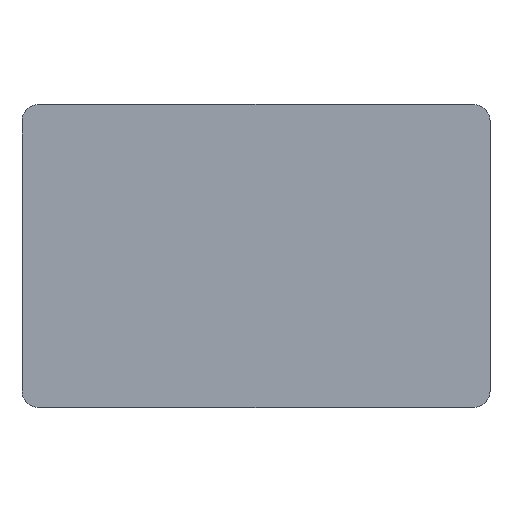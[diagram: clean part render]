
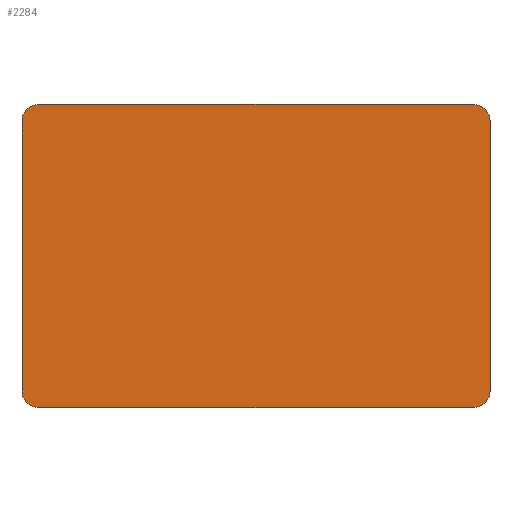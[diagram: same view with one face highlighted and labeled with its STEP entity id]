
A CAD part, top view. The second image highlights one B-rep face of the part: STEP entity #2284.
In plain terms, the highlighted planar face has unit normal (0, 0, 1).
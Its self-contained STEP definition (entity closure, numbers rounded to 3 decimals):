
#123=CIRCLE('',#2500,3.);
#124=CIRCLE('',#2503,3.);
#126=CIRCLE('',#2510,3.);
#127=CIRCLE('',#2511,3.);
#294=FACE_OUTER_BOUND('',#454,.T.);
#454=EDGE_LOOP('',(#2043,#2044,#2045,#2046,#2047,#2048,#2049,#2050));
#680=LINE('',#3793,#912);
#683=LINE('',#3801,#915);
#686=LINE('',#3813,#918);
#687=LINE('',#3816,#919);
#912=VECTOR('',#3133,10.);
#915=VECTOR('',#3142,10.);
#918=VECTOR('',#3157,10.);
#919=VECTOR('',#3160,10.);
#1122=VERTEX_POINT('',#3785);
#1123=VERTEX_POINT('',#3787);
#1124=VERTEX_POINT('',#3791);
#1125=VERTEX_POINT('',#3795);
#1126=VERTEX_POINT('',#3799);
#1128=VERTEX_POINT('',#3810);
#1129=VERTEX_POINT('',#3812);
#1130=VERTEX_POINT('',#3814);
#1425=EDGE_CURVE('',#1122,#1123,#123,.T.);
#1428=EDGE_CURVE('',#1122,#1124,#680,.T.);
#1430=EDGE_CURVE('',#1125,#1124,#124,.T.);
#1432=EDGE_CURVE('',#1125,#1126,#683,.T.);
#1436=EDGE_CURVE('',#1128,#1126,#126,.T.);
#1437=EDGE_CURVE('',#1128,#1129,#686,.T.);
#1438=EDGE_CURVE('',#1130,#1129,#127,.T.);
#1439=EDGE_CURVE('',#1130,#1123,#687,.T.);
#2043=ORIENTED_EDGE('',*,*,#1430,.F.);
#2044=ORIENTED_EDGE('',*,*,#1432,.T.);
#2045=ORIENTED_EDGE('',*,*,#1436,.F.);
#2046=ORIENTED_EDGE('',*,*,#1437,.T.);
#2047=ORIENTED_EDGE('',*,*,#1438,.F.);
#2048=ORIENTED_EDGE('',*,*,#1439,.T.);
#2049=ORIENTED_EDGE('',*,*,#1425,.F.);
#2050=ORIENTED_EDGE('',*,*,#1428,.T.);
#2155=PLANE('',#2509);
#2284=ADVANCED_FACE('',(#294),#2155,.T.);
#2500=AXIS2_PLACEMENT_3D('',#3788,#3127,#3128);
#2503=AXIS2_PLACEMENT_3D('',#3797,#3137,#3138);
#2509=AXIS2_PLACEMENT_3D('',#3809,#3153,#3154);
#2510=AXIS2_PLACEMENT_3D('',#3811,#3155,#3156);
#2511=AXIS2_PLACEMENT_3D('',#3815,#3158,#3159);
#3127=DIRECTION('center_axis',(0.,0.,-1.));
#3128=DIRECTION('ref_axis',(0.707,-0.707,0.));
#3133=DIRECTION('',(0.,1.,0.));
#3137=DIRECTION('center_axis',(0.,0.,-1.));
#3138=DIRECTION('ref_axis',(0.707,0.707,0.));
#3142=DIRECTION('',(-1.,0.,0.));
#3153=DIRECTION('center_axis',(0.,0.,1.));
#3154=DIRECTION('ref_axis',(1.,0.,0.));
#3155=DIRECTION('center_axis',(0.,0.,-1.));
#3156=DIRECTION('ref_axis',(-0.707,0.707,0.));
#3157=DIRECTION('',(0.,-1.,0.));
#3158=DIRECTION('center_axis',(0.,0.,-1.));
#3159=DIRECTION('ref_axis',(-0.707,-0.707,0.));
#3160=DIRECTION('',(1.,0.,0.));
#3785=CARTESIAN_POINT('',(42.5,-24.5,30.));
#3787=CARTESIAN_POINT('',(39.5,-27.5,30.));
#3788=CARTESIAN_POINT('Origin',(39.5,-24.5,30.));
#3791=CARTESIAN_POINT('',(42.5,24.5,30.));
#3793=CARTESIAN_POINT('',(42.5,-27.5,30.));
#3795=CARTESIAN_POINT('',(39.5,27.5,30.));
#3797=CARTESIAN_POINT('Origin',(39.5,24.5,30.));
#3799=CARTESIAN_POINT('',(-39.5,27.5,30.));
#3801=CARTESIAN_POINT('',(42.5,27.5,30.));
#3809=CARTESIAN_POINT('Origin',(0.,0.,30.));
#3810=CARTESIAN_POINT('',(-42.5,24.5,30.));
#3811=CARTESIAN_POINT('Origin',(-39.5,24.5,30.));
#3812=CARTESIAN_POINT('',(-42.5,-24.5,30.));
#3813=CARTESIAN_POINT('',(-42.5,27.5,30.));
#3814=CARTESIAN_POINT('',(-39.5,-27.5,30.));
#3815=CARTESIAN_POINT('Origin',(-39.5,-24.5,30.));
#3816=CARTESIAN_POINT('',(-42.5,-27.5,30.));
